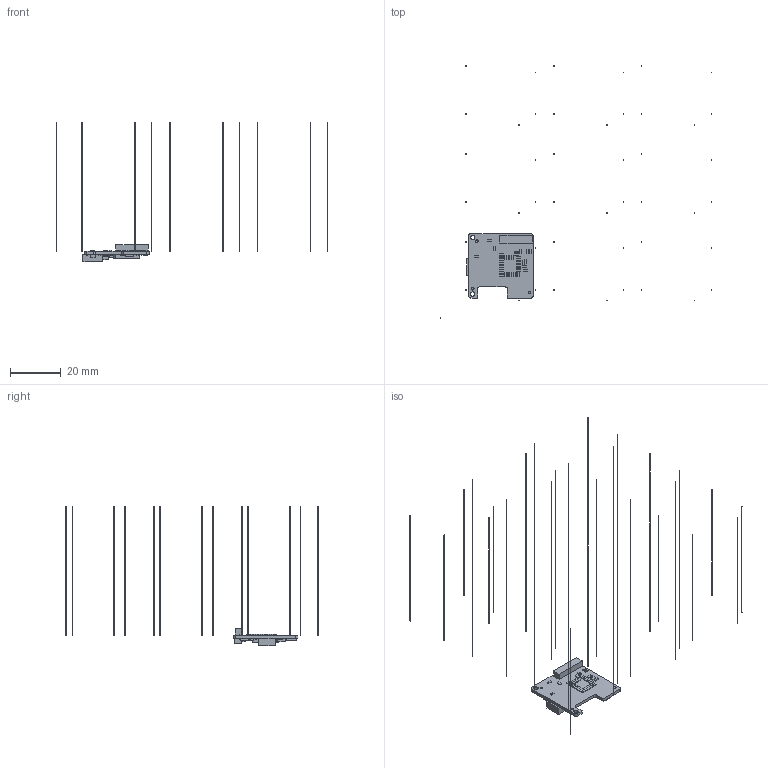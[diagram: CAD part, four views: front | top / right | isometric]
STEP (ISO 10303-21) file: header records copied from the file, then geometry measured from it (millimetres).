
FILE_DESCRIPTION(('FreeCAD Model'),'2;1');
FILE_NAME( 'D:/Working/MARIS/NP-N_MEZZ_HDMI_R2/Out/NP-N_MEZZ_HDMI_R2_FreeCAD.stp' ,'2016-08-21T18:28:41',('FreeCAD'),('FreeCAD'), 'Open CASCADE STEP processor 6.5','FreeCAD','Unknown');
FILE_SCHEMA(('AUTOMOTIVE_DESIGN_CC2 { 1 2 10303 214 -1 1 5 4 }'));
Length unit declared in the file: millimetre
Products named in the file (139): C21; NOREFDES026; NOREFDES045; NOREFDES007; C23; NOREFDES040; R18; R33; C28; R17; NOREFDES029; NOREFDES038; FD2; C18; C31; C22; C1; C29; C34; C4; NOREFDES032; NOREFDES001; R26; NOREFDES013; C27; C19; C15; R32; Q3; R11; NOREFDES042; NOREFDES039; C2; R24; R10; C11; C17; C5; C9; C7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
Bounding box: 106.64 x 99.2 x 55.05 mm (x, y, z)
Volume: 1304.7 mm3; surface area: 3956.2 mm2
Topology: 139 solids, 139 shells, 743 faces, 1395 edges, 930 vertices
Faces by surface type: plane 631, cylinder 112
Full cylindrical faces by diameter (mm): 1.651 x2
Entity records: 39338 total; most frequent: CARTESIAN_POINT 6531, DIRECTION 5785, LINE 3737, VECTOR 3737, ORIENTED_EDGE 2790, PCURVE 2790, DEFINITIONAL_REPRESENTATION 2790, EDGE_CURVE 1395
